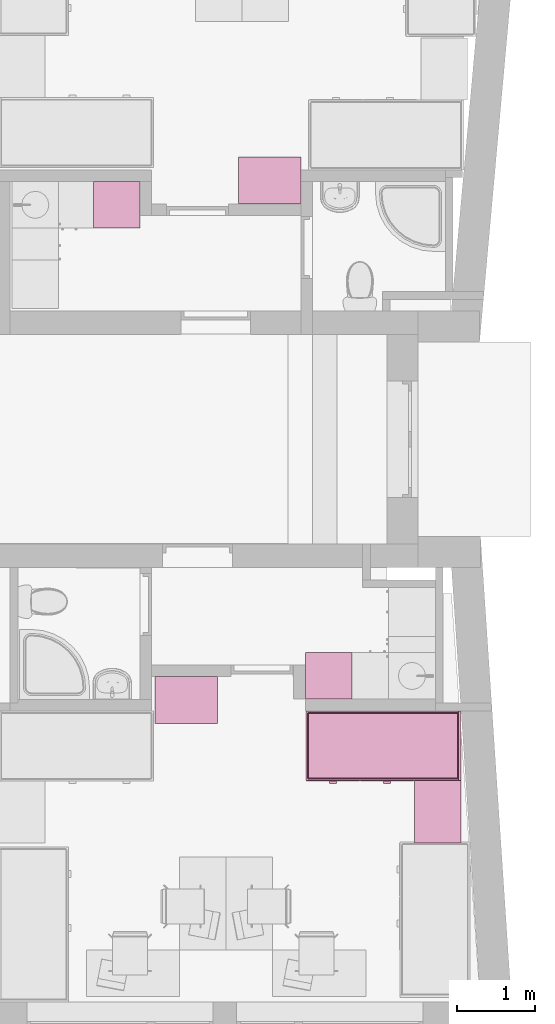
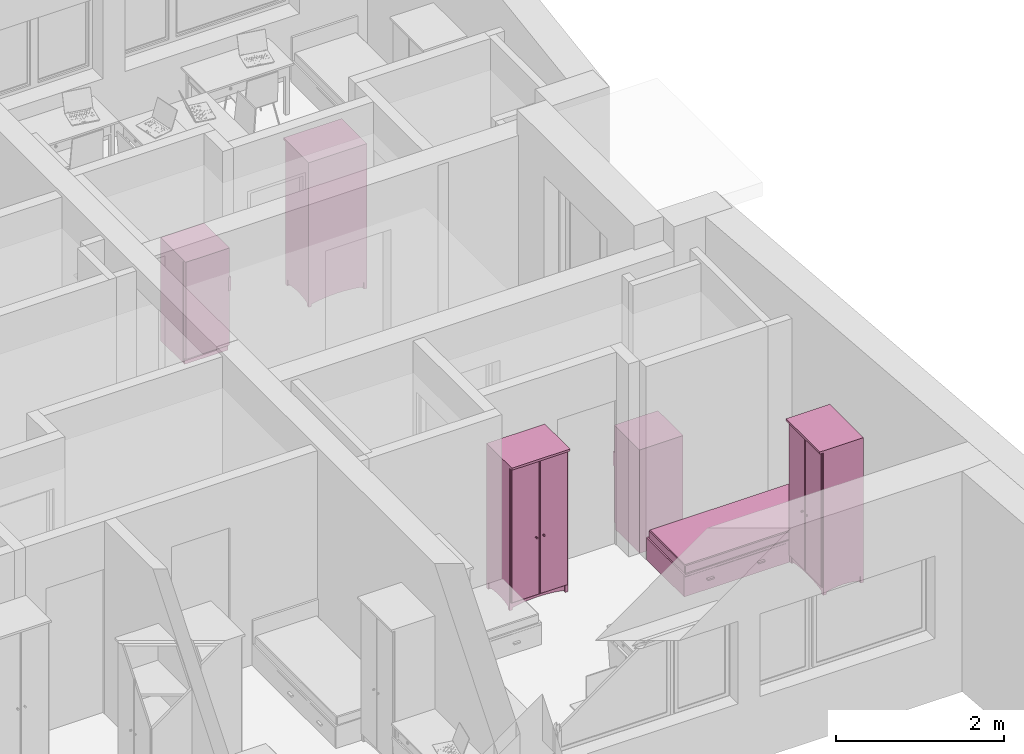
# One storey, part 143 of 165: 6 furnishings.
"""IFC2X3 building model written with IfcOpenShell, lengths in millimetres."""

from ifc_helpers import new_model, entity, si_unit, converted_unit, money_unit, direction, frame, origin_with_axes, place, context, subcontext, project, spatial, open_shell, faceted_brep, surface_model, source, transform, mapped, material, material_list, type_object, element, save


model = new_model("IFC2X3")

# Units and contexts
model_context = context("Model", 3, precision=1e-05, world=origin_with_axes(), true_north=direction((0.0, 1.0)))
body_context = subcontext(model_context, "Body", "Model", "MODEL_VIEW")
ifc_project = project(units=[si_unit("LENGTHUNIT", "METRE", prefix="MILLI"), si_unit("AREAUNIT", "SQUARE_METRE"), si_unit("VOLUMEUNIT", "CUBIC_METRE"), converted_unit("PLANEANGLEUNIT", "DEGREE", entity("IfcPlaneAngleMeasure", 0.0174532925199), si_unit("PLANEANGLEUNIT", "RADIAN"), dimensions=[0, 0, 0, 0, 0, 0, 0]), si_unit("SOLIDANGLEUNIT", "STERADIAN"), money_unit("USD"), converted_unit("TIMEUNIT", "Year", entity("IfcTimeMeasure", 31556926.0), si_unit("TIMEUNIT", "SECOND"), dimensions=[0, 0, 0, 0, 0, 0, 0]), si_unit("MASSUNIT", "GRAM"), si_unit("THERMODYNAMICTEMPERATUREUNIT", "DEGREE_CELSIUS"), si_unit("LUMINOUSINTENSITYUNIT", "LUMEN")], contexts=[model_context])

# Site, building, storey
site_placement = place(None, origin_with_axes())
site = spatial("IfcSite", under=ifc_project, at=site_placement, Name="Site", CompositionType="ELEMENT")
building_placement = place(site_placement, origin_with_axes())
building = spatial("IfcBuilding", under=site, at=building_placement, Name="Building", CompositionType="ELEMENT")
storey_placement = place(building_placement, frame((0.0, 0.0, 6300.0), z_axis=(0.0, 0.0, 1.0), x_axis=(1.0, 0.0, 0.0)))
storey = spatial("IfcBuildingStorey", under=building, at=storey_placement, Name="4KORRUS", CompositionType="ELEMENT", Elevation=6300.0)

# Furnishings
ifc_material = material(Name="Background")
ifc_material_list = material_list([ifc_material])
furnishing_element_type_1 = type_object("IfcFurnishingElementType", Name="Bed 19")
shared_shape_1 = source(origin_with_axes(), body_context, "Body", "Brep", [
    faceted_brep([(900.0, 1970.0, 0.0), (0.0, 1970.0, 0.0), (0.0, 2000.0, 0.0), (900.0, 2000.0, 0.0), (900.0, 1970.0, 660.0), (0.0, 1970.0, 660.0), (0.0, 2000.0, 660.0), (900.0, 2000.0, 660.0)], [[[0, 1, 2, 3]], [[1, 0, 4, 5]], [[2, 1, 5, 6]], [[3, 2, 6, 7]], [[0, 3, 7, 4]], [[5, 4, 7, 6]]]),
    faceted_brep([(900.0, 0.0, 0.0), (0.0, 0.0, 0.0), (0.0, 1970.0, 0.0), (900.0, 1970.0, 0.0), (900.0, 0.0, 320.0), (0.0, 0.0, 320.0), (0.0, 1970.0, 320.0), (900.0, 1970.0, 320.0)], [[[0, 1, 2, 3]], [[1, 0, 4, 5]], [[2, 1, 5, 6]], [[3, 2, 6, 7]], [[0, 3, 7, 4]], [[5, 4, 7, 6]]]),
    faceted_brep([(905.0, 10.0, 30.0), (900.0, 10.0, 30.0), (900.0, 695.0, 30.0), (905.0, 695.0, 30.0), (905.0, 10.0, 290.0), (900.0, 10.0, 290.0), (900.0, 695.0, 290.0), (905.0, 695.0, 290.0)], [[[0, 1, 2, 3]], [[1, 0, 4, 5]], [[2, 1, 5, 6]], [[3, 2, 6, 7]], [[0, 3, 7, 4]], [[5, 4, 7, 6]]]),
    faceted_brep([(935.0, 307.5, 150.0), (905.0, 307.5, 150.0), (905.0, 397.5, 150.0), (935.0, 397.5, 150.0), (935.0, 307.5, 170.0), (905.0, 307.5, 170.0), (905.0, 397.5, 170.0), (935.0, 397.5, 170.0)], [[[0, 1, 2, 3]], [[1, 0, 4, 5]], [[2, 1, 5, 6]], [[3, 2, 6, 7]], [[0, 3, 7, 4]], [[5, 4, 7, 6]]]),
    faceted_brep([(905.0, 705.0, 30.0), (900.0, 705.0, 30.0), (900.0, 1390.0, 30.0), (905.0, 1390.0, 30.0), (905.0, 705.0, 290.0), (900.0, 705.0, 290.0), (900.0, 1390.0, 290.0), (905.0, 1390.0, 290.0)], [[[0, 1, 2, 3]], [[1, 0, 4, 5]], [[2, 1, 5, 6]], [[3, 2, 6, 7]], [[0, 3, 7, 4]], [[5, 4, 7, 6]]]),
    faceted_brep([(935.0, 1002.5, 150.0), (905.0, 1002.5, 150.0), (905.0, 1092.5, 150.0), (935.0, 1092.5, 150.0), (935.0, 1002.5, 170.0), (905.0, 1002.5, 170.0), (905.0, 1092.5, 170.0), (935.0, 1092.5, 170.0)], [[[0, 1, 2, 3]], [[1, 0, 4, 5]], [[2, 1, 5, 6]], [[3, 2, 6, 7]], [[0, 3, 7, 4]], [[5, 4, 7, 6]]]),
    faceted_brep([(20.0, 40.0, 350.0), (20.0, 1950.0, 350.0), (21.522, 1957.654, 350.0), (25.858, 1964.142, 350.0), (32.346, 1968.478, 350.0), (40.0, 1970.0, 350.0), (860.0, 1970.0, 350.0), (867.654, 1968.478, 350.0), (874.142, 1964.142, 350.0), (878.478, 1957.654, 350.0), (880.0, 1950.0, 350.0), (880.0, 40.0, 350.0), (878.478, 32.346, 350.0), (874.142, 25.858, 350.0), (867.654, 21.522, 350.0), (860.0, 20.0, 350.0), (40.0, 20.0, 350.0), (32.346, 21.522, 350.0), (25.858, 25.858, 350.0), (21.522, 32.346, 350.0), (20.0, 40.0, 420.0), (20.0, 1950.0, 420.0), (21.522, 1957.654, 420.0), (25.858, 1964.142, 420.0), (32.346, 1968.478, 420.0), (40.0, 1970.0, 420.0), (860.0, 1970.0, 420.0), (867.654, 1968.478, 420.0), (874.142, 1964.142, 420.0), (878.478, 1957.654, 420.0), (880.0, 1950.0, 420.0), (880.0, 40.0, 420.0), (878.478, 32.346, 420.0), (874.142, 25.858, 420.0), (867.654, 21.522, 420.0), (860.0, 20.0, 420.0), (40.0, 20.0, 420.0), (32.346, 21.522, 420.0), (25.858, 25.858, 420.0), (21.522, 32.346, 420.0), (21.522, 40.15, 427.654), (21.522, 1949.85, 427.654), (22.956, 1957.06, 427.654), (26.955, 1963.045, 427.654), (32.94, 1967.044, 427.654), (40.15, 1968.478, 427.654), (859.85, 1968.478, 427.654), (867.06, 1967.044, 427.654), (873.045, 1963.045, 427.654), (877.044, 1957.06, 427.654), (878.478, 1949.85, 427.654), (878.478, 40.15, 427.654), (877.044, 32.94, 427.654), (873.045, 26.955, 427.654), (867.06, 22.956, 427.654), (859.85, 21.522, 427.654), (40.15, 21.522, 427.654), (32.94, 22.956, 427.654), (26.955, 26.955, 427.654), (22.956, 32.94, 427.654), (32.346, 41.216, 438.478), (32.346, 1948.784, 438.478), (33.152, 1952.836, 438.478), (34.759, 1955.241, 438.478), (37.164, 1956.848, 438.478), (41.216, 1957.654, 438.478), (858.784, 1957.654, 438.478), (862.836, 1956.848, 438.478), (865.241, 1955.241, 438.478), (866.848, 1952.836, 438.478), (867.654, 1948.784, 438.478), (867.654, 41.216, 438.478), (866.848, 37.164, 438.478), (865.241, 34.759, 438.478), (862.836, 33.152, 438.478), (858.784, 32.346, 438.478), (41.216, 32.346, 438.478), (37.164, 33.152, 438.478), (34.759, 34.759, 438.478), (33.152, 37.164, 438.478), (40.0, 41.97, 440.0), (40.0, 1948.03, 440.0), (40.327, 1949.673, 440.0), (40.0, 1950.0, 439.924), (41.97, 1950.0, 440.0), (858.03, 1950.0, 440.0), (859.673, 1949.673, 440.0), (860.0, 1950.0, 439.924), (860.0, 1948.03, 440.0), (860.0, 41.97, 440.0), (859.673, 40.327, 440.0), (860.0, 40.0, 439.924), (858.03, 40.0, 440.0), (41.97, 40.0, 440.0), (40.327, 40.327, 440.0), (40.0, 40.0, 439.924)], [[[0, 1, 2, 3, 4, 5, 6, 7, 8, 9, 10, 11, 12, 13, 14, 15, 16, 17, 18, 19]], [[1, 0, 20, 21]], [[2, 1, 21, 22]], [[3, 2, 22, 23]], [[4, 3, 23, 24]], [[5, 4, 24, 25]], [[6, 5, 25, 26]], [[7, 6, 26, 27]], [[8, 7, 27, 28]], [[9, 8, 28, 29]], [[10, 9, 29, 30]], [[11, 10, 30, 31]], [[12, 11, 31, 32]], [[13, 12, 32, 33]], [[14, 13, 33, 34]], [[15, 14, 34, 35]], [[16, 15, 35, 36]], [[17, 16, 36, 37]], [[18, 17, 37, 38]], [[19, 18, 38, 39]], [[0, 19, 39, 20]], [[21, 20, 40, 41]], [[22, 21, 41, 42]], [[23, 22, 42, 43]], [[24, 23, 43, 44]], [[25, 24, 44, 45]], [[26, 25, 45, 46]], [[27, 26, 46, 47]], [[28, 27, 47, 48]], [[29, 28, 48, 49]], [[30, 29, 49, 50]], [[31, 30, 50, 51]], [[32, 31, 51, 52]], [[33, 32, 52, 53]], [[34, 33, 53, 54]], [[35, 34, 54, 55]], [[36, 35, 55, 56]], [[37, 36, 56, 57]], [[38, 37, 57, 58]], [[39, 38, 58, 59]], [[20, 39, 59, 40]], [[41, 40, 60, 61]], [[42, 41, 61, 62]], [[43, 42, 62, 63]], [[44, 43, 63, 64]], [[45, 44, 64, 65]], [[46, 45, 65, 66]], [[47, 46, 66, 67]], [[48, 47, 67, 68]], [[49, 48, 68, 69]], [[50, 49, 69, 70]], [[51, 50, 70, 71]], [[52, 51, 71, 72]], [[53, 52, 72, 73]], [[54, 53, 73, 74]], [[55, 54, 74, 75]], [[56, 55, 75, 76]], [[57, 56, 76, 77]], [[58, 57, 77, 78]], [[59, 58, 78, 79]], [[40, 59, 79, 60]], [[61, 60, 80, 81]], [[62, 61, 81, 82, 83]], [[63, 62, 83]], [[64, 63, 83]], [[65, 64, 83, 82, 84]], [[66, 65, 84, 85]], [[67, 66, 85, 86, 87]], [[68, 67, 87]], [[69, 68, 87]], [[70, 69, 87, 86, 88]], [[71, 70, 88, 89]], [[72, 71, 89, 90, 91]], [[73, 72, 91]], [[74, 73, 91]], [[75, 74, 91, 90, 92]], [[76, 75, 92, 93]], [[77, 76, 93, 94, 95]], [[78, 77, 95]], [[79, 78, 95]], [[60, 79, 95, 94, 80]], [[81, 80, 94, 93, 92, 90, 89, 88, 86, 85, 84, 82]]]),
    faceted_brep([(20.0, 40.0, 350.0), (21.522, 32.346, 350.0), (25.858, 25.858, 350.0), (32.346, 21.522, 350.0), (40.0, 20.0, 350.0), (860.0, 20.0, 350.0), (867.654, 21.522, 350.0), (874.142, 25.858, 350.0), (878.478, 32.346, 350.0), (880.0, 40.0, 350.0), (880.0, 1950.0, 350.0), (878.478, 1957.654, 350.0), (874.142, 1964.142, 350.0), (867.654, 1968.478, 350.0), (860.0, 1970.0, 350.0), (40.0, 1970.0, 350.0), (32.346, 1968.478, 350.0), (25.858, 1964.142, 350.0), (21.522, 1957.654, 350.0), (20.0, 1950.0, 350.0), (20.0, 40.0, 320.0), (21.522, 32.346, 320.0), (25.858, 25.858, 320.0), (32.346, 21.522, 320.0), (40.0, 20.0, 320.0), (860.0, 20.0, 320.0), (867.654, 21.522, 320.0), (874.142, 25.858, 320.0), (878.478, 32.346, 320.0), (880.0, 40.0, 320.0), (880.0, 1950.0, 320.0), (878.478, 1957.654, 320.0), (874.142, 1964.142, 320.0), (867.654, 1968.478, 320.0), (860.0, 1970.0, 320.0), (40.0, 1970.0, 320.0), (32.346, 1968.478, 320.0), (25.858, 1964.142, 320.0), (21.522, 1957.654, 320.0), (20.0, 1950.0, 320.0)], [[[0, 1, 2, 3, 4, 5, 6, 7, 8, 9, 10, 11, 12, 13, 14, 15, 16, 17, 18, 19]], [[0, 20, 21, 1]], [[1, 21, 22, 2]], [[2, 22, 23, 3]], [[3, 23, 24, 4]], [[4, 24, 25, 5]], [[5, 25, 26, 6]], [[6, 26, 27, 7]], [[7, 27, 28, 8]], [[8, 28, 29, 9]], [[9, 29, 30, 10]], [[10, 30, 31, 11]], [[11, 31, 32, 12]], [[12, 32, 33, 13]], [[13, 33, 34, 14]], [[14, 34, 35, 15]], [[15, 35, 36, 16]], [[16, 36, 37, 17]], [[17, 37, 38, 18]], [[18, 38, 39, 19]], [[19, 39, 20, 0]], [[20, 39, 38, 37, 36, 35, 34, 33, 32, 31, 30, 29, 28, 27, 26, 25, 24, 23, 22, 21]]]),
])
furnishing_placement = place(storey_placement, frame((15968.0609283, -15888.0262806, 0.0), z_axis=(0.0, 0.0, 1.0), x_axis=(0.0, -1.0, 0.0)))
element("IfcFurnishingElement", 1, at=furnishing_placement, inside=storey, type_object=furnishing_element_type_1, material=ifc_material_list, Name="FU - 013", context=body_context, shape_type="MappedRepresentation", body=[
    mapped(shared_shape_1, transform((0.0, 0.0, 0.0))),
])
furnishing_element_type_2 = type_object("IfcFurnishingElementType", Name="Cupboard 19")
shared_shape_2 = source(origin_with_axes(), body_context, "Body", "Brep", [
    faceted_brep([(780.0, 600.0, 120.0), (780.0, 600.0, 2050.0), (780.0, 580.0, 2050.0), (780.0, 580.0, 120.0), (20.0, 600.0, 120.0), (20.0, 600.0, 2050.0), (20.0, 580.0, 2050.0), (20.0, 580.0, 120.0)], [[[0, 1, 2, 3]], [[4, 5, 1, 0]], [[1, 5, 6, 2]], [[3, 2, 6, 7]], [[0, 3, 7, 4]], [[7, 6, 5, 4]]]),
    faceted_brep([(0.0, 50.0, 100.0), (0.0, 600.0, 100.0), (20.0, 600.0, 100.0), (20.0, 50.0, 100.0), (0.0, 50.0, 2070.0), (0.0, 600.0, 2070.0), (20.0, 600.0, 2070.0), (20.0, 50.0, 2070.0)], [[[0, 1, 2, 3]], [[0, 4, 5, 1]], [[1, 5, 6, 2]], [[2, 6, 7, 3]], [[3, 7, 4, 0]], [[7, 6, 5, 4]]]),
    faceted_brep([(780.0, 50.0, 100.0), (780.0, 600.0, 100.0), (800.0, 600.0, 100.0), (800.0, 50.0, 100.0), (780.0, 50.0, 2070.0), (780.0, 600.0, 2070.0), (800.0, 600.0, 2070.0), (800.0, 50.0, 2070.0)], [[[0, 1, 2, 3]], [[0, 4, 5, 1]], [[1, 5, 6, 2]], [[2, 6, 7, 3]], [[3, 7, 4, 0]], [[7, 6, 5, 4]]]),
    faceted_brep([(20.0, 50.0, 100.0), (20.0, 600.0, 100.0), (780.0, 600.0, 100.0), (780.0, 50.0, 100.0), (20.0, 50.0, 120.0), (20.0, 600.0, 120.0), (780.0, 600.0, 120.0), (780.0, 50.0, 120.0)], [[[0, 1, 2, 3]], [[0, 4, 5, 1]], [[1, 5, 6, 2]], [[2, 6, 7, 3]], [[3, 7, 4, 0]], [[7, 6, 5, 4]]]),
    faceted_brep([(20.0, 50.0, 2050.0), (20.0, 600.0, 2050.0), (780.0, 600.0, 2050.0), (780.0, 50.0, 2050.0), (20.0, 50.0, 2070.0), (20.0, 600.0, 2070.0), (780.0, 600.0, 2070.0), (780.0, 50.0, 2070.0)], [[[0, 1, 2, 3]], [[0, 4, 5, 1]], [[1, 5, 6, 2]], [[2, 6, 7, 3]], [[3, 7, 4, 0]], [[7, 6, 5, 4]]]),
    faceted_brep([(0.0, 600.0, 2070.0), (0.0, 0.0, 2070.0), (0.0, 0.0, 2100.0), (0.0, 600.0, 2100.0), (800.0, 600.0, 2070.0), (800.0, 0.0, 2070.0), (800.0, 0.0, 2100.0), (800.0, 600.0, 2100.0)], [[[0, 1, 2, 3]], [[0, 4, 5, 1]], [[1, 5, 6, 2]], [[3, 2, 6, 7]], [[4, 0, 3, 7]], [[5, 4, 7, 6]]]),
    faceted_brep([(760.0, 590.0, 25.0), (760.0, 570.0, 25.0), (640.962, 570.0, 45.8), (640.962, 590.0, 45.8), (760.0, 590.0, 100.0), (760.0, 570.0, 100.0), (40.0, 570.0, 100.0), (40.0, 570.0, 25.0), (159.038, 570.0, 45.8), (279.23, 570.0, 58.32), (400.0, 570.0, 62.5), (520.77, 570.0, 58.32), (520.77, 590.0, 58.32), (400.0, 590.0, 62.5), (279.23, 590.0, 58.32), (159.038, 590.0, 45.8), (40.0, 590.0, 25.0), (40.0, 590.0, 100.0)], [[[0, 1, 2, 3]], [[4, 5, 1, 0]], [[1, 5, 6, 7, 8, 9, 10, 11, 2]], [[3, 2, 11, 12]], [[0, 3, 12, 13, 14, 15, 16, 17, 4]], [[17, 6, 5, 4]], [[16, 7, 6, 17]], [[15, 8, 7, 16]], [[14, 9, 8, 15]], [[13, 10, 9, 14]], [[12, 11, 10, 13]]]),
    faceted_brep([(760.0, 80.0, 25.0), (760.0, 60.0, 25.0), (640.962, 60.0, 45.8), (640.962, 80.0, 45.8), (760.0, 80.0, 100.0), (760.0, 60.0, 100.0), (40.0, 60.0, 100.0), (40.0, 60.0, 25.0), (159.038, 60.0, 45.8), (279.23, 60.0, 58.32), (400.0, 60.0, 62.5), (520.77, 60.0, 58.32), (520.77, 80.0, 58.32), (400.0, 80.0, 62.5), (279.23, 80.0, 58.32), (159.038, 80.0, 45.8), (40.0, 80.0, 25.0), (40.0, 80.0, 100.0)], [[[0, 1, 2, 3]], [[4, 5, 1, 0]], [[1, 5, 6, 7, 8, 9, 10, 11, 2]], [[3, 2, 11, 12]], [[0, 3, 12, 13, 14, 15, 16, 17, 4]], [[17, 6, 5, 4]], [[16, 7, 6, 17]], [[15, 8, 7, 16]], [[14, 9, 8, 15]], [[13, 10, 9, 14]], [[12, 11, 10, 13]]]),
    faceted_brep([(790.0, 90.0, 25.0), (770.0, 90.0, 25.0), (770.0, 141.266, 38.072), (790.0, 141.266, 38.072), (790.0, 90.0, 100.0), (770.0, 90.0, 100.0), (770.0, 560.0, 100.0), (770.0, 560.0, 25.0), (770.0, 508.734, 38.072), (770.0, 456.752, 47.92), (770.0, 404.257, 54.508), (770.0, 351.453, 57.808), (770.0, 298.547, 57.808), (770.0, 245.743, 54.508), (770.0, 193.248, 47.92), (790.0, 193.248, 47.92), (790.0, 245.743, 54.508), (790.0, 298.547, 57.808), (790.0, 351.453, 57.808), (790.0, 404.257, 54.508), (790.0, 456.752, 47.92), (790.0, 508.734, 38.072), (790.0, 560.0, 25.0), (790.0, 560.0, 100.0)], [[[0, 1, 2, 3]], [[4, 5, 1, 0]], [[1, 5, 6, 7, 8, 9, 10, 11, 12, 13, 14, 2]], [[3, 2, 14, 15]], [[0, 3, 15, 16, 17, 18, 19, 20, 21, 22, 23, 4]], [[23, 6, 5, 4]], [[22, 7, 6, 23]], [[21, 8, 7, 22]], [[20, 9, 8, 21]], [[19, 10, 9, 20]], [[18, 11, 10, 19]], [[17, 12, 11, 18]], [[16, 13, 12, 17]], [[15, 14, 13, 16]]]),
    faceted_brep([(30.0, 90.0, 25.0), (10.0, 90.0, 25.0), (10.0, 141.266, 38.072), (30.0, 141.266, 38.072), (30.0, 90.0, 100.0), (10.0, 90.0, 100.0), (10.0, 560.0, 100.0), (10.0, 560.0, 25.0), (10.0, 508.734, 38.072), (10.0, 456.752, 47.92), (10.0, 404.257, 54.508), (10.0, 351.453, 57.808), (10.0, 298.547, 57.808), (10.0, 245.743, 54.508), (10.0, 193.248, 47.92), (30.0, 193.248, 47.92), (30.0, 245.743, 54.508), (30.0, 298.547, 57.808), (30.0, 351.453, 57.808), (30.0, 404.257, 54.508), (30.0, 456.752, 47.92), (30.0, 508.734, 38.072), (30.0, 560.0, 25.0), (30.0, 560.0, 100.0)], [[[0, 1, 2, 3]], [[4, 5, 1, 0]], [[1, 5, 6, 7, 8, 9, 10, 11, 12, 13, 14, 2]], [[3, 2, 14, 15]], [[0, 3, 15, 16, 17, 18, 19, 20, 21, 22, 23, 4]], [[23, 6, 5, 4]], [[22, 7, 6, 23]], [[21, 8, 7, 22]], [[20, 9, 8, 21]], [[19, 10, 9, 20]], [[18, 11, 10, 19]], [[17, 12, 11, 18]], [[16, 13, 12, 17]], [[15, 14, 13, 16]]]),
    faceted_brep([(760.0, 560.0, 0.0), (760.0, 560.0, 100.0), (760.0, 600.0, 100.0), (760.0, 600.0, 0.0), (800.0, 560.0, 0.0), (800.0, 560.0, 100.0), (800.0, 600.0, 100.0), (800.0, 600.0, 0.0)], [[[0, 1, 2, 3]], [[4, 5, 1, 0]], [[1, 5, 6, 2]], [[3, 2, 6, 7]], [[0, 3, 7, 4]], [[7, 6, 5, 4]]]),
    faceted_brep([(0.0, 560.0, 0.0), (0.0, 560.0, 100.0), (0.0, 600.0, 100.0), (0.0, 600.0, 0.0), (40.0, 560.0, 0.0), (40.0, 560.0, 100.0), (40.0, 600.0, 100.0), (40.0, 600.0, 0.0)], [[[0, 1, 2, 3]], [[4, 5, 1, 0]], [[1, 5, 6, 2]], [[3, 2, 6, 7]], [[0, 3, 7, 4]], [[7, 6, 5, 4]]]),
    faceted_brep([(760.0, 50.0, 0.0), (760.0, 50.0, 100.0), (760.0, 90.0, 100.0), (760.0, 90.0, 0.0), (800.0, 50.0, 0.0), (800.0, 50.0, 100.0), (800.0, 90.0, 100.0), (800.0, 90.0, 0.0)], [[[0, 1, 2, 3]], [[4, 5, 1, 0]], [[1, 5, 6, 2]], [[3, 2, 6, 7]], [[0, 3, 7, 4]], [[7, 6, 5, 4]]]),
    faceted_brep([(0.0, 50.0, 0.0), (0.0, 50.0, 100.0), (0.0, 90.0, 100.0), (0.0, 90.0, 0.0), (40.0, 50.0, 0.0), (40.0, 50.0, 100.0), (40.0, 90.0, 100.0), (40.0, 90.0, 0.0)], [[[0, 1, 2, 3]], [[4, 5, 1, 0]], [[1, 5, 6, 2]], [[3, 2, 6, 7]], [[0, 3, 7, 4]], [[7, 6, 5, 4]]]),
    faceted_brep([(780.0, 580.0, 587.5), (780.0, 580.0, 607.5), (780.0, 50.0, 607.5), (780.0, 50.0, 587.5), (20.0, 580.0, 587.5), (20.0, 580.0, 607.5), (20.0, 50.0, 607.5), (20.0, 50.0, 587.5)], [[[0, 1, 2, 3]], [[4, 5, 1, 0]], [[1, 5, 6, 2]], [[3, 2, 6, 7]], [[0, 3, 7, 4]], [[7, 6, 5, 4]]]),
    faceted_brep([(780.0, 580.0, 1075.0), (780.0, 580.0, 1095.0), (780.0, 50.0, 1095.0), (780.0, 50.0, 1075.0), (20.0, 580.0, 1075.0), (20.0, 580.0, 1095.0), (20.0, 50.0, 1095.0), (20.0, 50.0, 1075.0)], [[[0, 1, 2, 3]], [[4, 5, 1, 0]], [[1, 5, 6, 2]], [[3, 2, 6, 7]], [[0, 3, 7, 4]], [[7, 6, 5, 4]]]),
    faceted_brep([(780.0, 580.0, 1562.5), (780.0, 580.0, 1582.5), (780.0, 50.0, 1582.5), (780.0, 50.0, 1562.5), (20.0, 580.0, 1562.5), (20.0, 580.0, 1582.5), (20.0, 50.0, 1582.5), (20.0, 50.0, 1562.5)], [[[0, 1, 2, 3]], [[4, 5, 1, 0]], [[1, 5, 6, 2]], [[3, 2, 6, 7]], [[0, 3, 7, 4]], [[7, 6, 5, 4]]]),
    faceted_brep([(789.5, 50.0, 110.5), (400.5, 50.0, 110.5), (400.5, 50.0, 2059.5), (789.5, 50.0, 2059.5), (789.5, 40.0, 110.5), (400.5, 40.0, 110.5), (400.5, 40.0, 2059.5), (789.5, 40.0, 2059.5), (779.5, 30.0, 120.5), (410.5, 30.0, 120.5), (410.5, 30.0, 2049.5), (779.5, 30.0, 2049.5)], [[[0, 1, 2, 3]], [[0, 4, 5, 1]], [[1, 5, 6, 2]], [[2, 6, 7, 3]], [[3, 7, 4, 0]], [[4, 8, 9, 5]], [[5, 9, 10, 6]], [[6, 10, 11, 7]], [[7, 11, 8, 4]], [[10, 9, 8, 11]]]),
    faceted_brep([(399.5, 50.0, 110.5), (10.5, 50.0, 110.5), (10.5, 50.0, 2059.5), (399.5, 50.0, 2059.5), (399.5, 40.0, 110.5), (10.5, 40.0, 110.5), (10.5, 40.0, 2059.5), (399.5, 40.0, 2059.5), (389.5, 30.0, 120.5), (20.5, 30.0, 120.5), (20.5, 30.0, 2049.5), (389.5, 30.0, 2049.5)], [[[0, 1, 2, 3]], [[0, 4, 5, 1]], [[1, 5, 6, 2]], [[2, 6, 7, 3]], [[3, 7, 4, 0]], [[4, 8, 9, 5]], [[5, 9, 10, 6]], [[6, 10, 11, 7]], [[7, 11, 8, 4]], [[10, 9, 8, 11]]]),
    faceted_brep([(339.608, 30.0, 954.0), (338.0, 30.0, 960.0), (339.608, 30.0, 966.0), (344.0, 30.0, 970.392), (350.0, 30.0, 972.0), (356.0, 30.0, 970.392), (360.392, 30.0, 966.0), (362.0, 30.0, 960.0), (360.392, 30.0, 954.0), (356.0, 30.0, 949.608), (350.0, 30.0, 948.0), (344.0, 30.0, 949.608), (339.608, 5.0, 954.0), (338.0, 5.0, 960.0), (339.608, 5.0, 966.0), (344.0, 5.0, 970.392), (350.0, 5.0, 972.0), (356.0, 5.0, 970.392), (360.392, 5.0, 966.0), (362.0, 5.0, 960.0), (360.392, 5.0, 954.0), (356.0, 5.0, 949.608), (350.0, 5.0, 948.0), (344.0, 5.0, 949.608)], [[[0, 1, 2, 3, 4, 5, 6, 7, 8, 9, 10, 11]], [[0, 12, 13, 1]], [[1, 13, 14, 2]], [[2, 14, 15, 3]], [[3, 15, 16, 4]], [[4, 16, 17, 5]], [[5, 17, 18, 6]], [[6, 18, 19, 7]], [[7, 19, 20, 8]], [[8, 20, 21, 9]], [[9, 21, 22, 10]], [[10, 22, 23, 11]], [[11, 23, 12, 0]], [[12, 23, 22, 21, 20, 19, 18, 17, 16, 15, 14, 13]]]),
    faceted_brep([(460.392, 30.0, 954.0), (456.0, 30.0, 949.608), (450.0, 30.0, 948.0), (444.0, 30.0, 949.608), (439.608, 30.0, 954.0), (438.0, 30.0, 960.0), (439.608, 30.0, 966.0), (444.0, 30.0, 970.392), (450.0, 30.0, 972.0), (456.0, 30.0, 970.392), (460.392, 30.0, 966.0), (462.0, 30.0, 960.0), (460.392, 5.0, 954.0), (456.0, 5.0, 949.608), (450.0, 5.0, 948.0), (444.0, 5.0, 949.608), (439.608, 5.0, 954.0), (438.0, 5.0, 960.0), (439.608, 5.0, 966.0), (444.0, 5.0, 970.392), (450.0, 5.0, 972.0), (456.0, 5.0, 970.392), (460.392, 5.0, 966.0), (462.0, 5.0, 960.0)], [[[0, 1, 2, 3, 4, 5, 6, 7, 8, 9, 10, 11]], [[1, 0, 12, 13]], [[2, 1, 13, 14]], [[3, 2, 14, 15]], [[4, 3, 15, 16]], [[5, 4, 16, 17]], [[6, 5, 17, 18]], [[7, 6, 18, 19]], [[8, 7, 19, 20]], [[9, 8, 20, 21]], [[10, 9, 21, 22]], [[11, 10, 22, 23]], [[0, 11, 23, 12]], [[12, 23, 22, 21, 20, 19, 18, 17, 16, 15, 14, 13]]]),
])
for number, where, z_axis, x_axis, name in (
    (2, (15903.8738504, -8755.99141655, 0.0), (0.0, 0.0, 1.0), (-1.0, 0.0, 0.0), "FU - 014"),
    (3, (14029.1036899, -16048.5106464, 0.0), (0.0, 0.0, 1.0), (1.0, 0.0, 0.0), "FU - 014"),
    (4, (17368.0609283, -16788.0262806, 0.0), (0.0, 0.0, 1.0), (0.0, -1.0, 0.0), "FU - 014"),
):
    element("IfcFurnishingElement", number, at=place(storey_placement, frame(where, z_axis=z_axis, x_axis=x_axis)), inside=storey, type_object=furnishing_element_type_2, material=ifc_material_list, Name=name, context=body_context, shape_type="MappedRepresentation", body=[
        mapped(shared_shape_2, transform((0.0, 0.0, 0.0))),
    ])
furnishing_element_type_3 = type_object("IfcFurnishingElementType", Name="Refrigerator 19")
shared_shape_3 = source(origin_with_axes(), body_context, "Body", "SurfaceModel", [
    faceted_brep([(0.0, 0.0, 1475.0), (600.0, 0.0, 1475.0), (600.0, 0.0, 1500.0), (0.0, 0.0, 1500.0), (0.0, 600.0, 1475.0), (600.0, 600.0, 1475.0), (600.0, 600.0, 1500.0), (0.0, 600.0, 1500.0)], [[[0, 1, 2, 3]], [[0, 4, 5, 1]], [[1, 5, 6, 2]], [[3, 2, 6, 7]], [[4, 0, 3, 7]], [[5, 4, 7, 6]]]),
    faceted_brep([(0.0, 65.0, 0.0), (600.0, 65.0, 0.0), (600.0, 65.0, 1475.0), (0.0, 65.0, 1475.0), (0.0, 600.0, 0.0), (600.0, 600.0, 0.0), (600.0, 600.0, 1475.0), (0.0, 600.0, 1475.0)], [[[0, 1, 2, 3]], [[0, 4, 5, 1]], [[1, 5, 6, 2]], [[3, 2, 6, 7]], [[4, 0, 3, 7]], [[5, 4, 7, 6]]]),
    faceted_brep([(0.0, 30.0, 0.0), (600.0, 30.0, 0.0), (600.0, 30.0, 90.0), (0.0, 30.0, 90.0), (0.0, 60.0, 0.0), (600.0, 60.0, 0.0), (600.0, 60.0, 90.0), (0.0, 60.0, 90.0)], [[[0, 1, 2, 3]], [[0, 4, 5, 1]], [[1, 5, 6, 2]], [[3, 2, 6, 7]], [[4, 0, 3, 7]], [[5, 4, 7, 6]]]),
    faceted_brep([(0.0, 60.0, 90.0), (600.0, 60.0, 90.0), (600.0, 0.0, 90.0), (0.0, 0.0, 90.0), (0.0, 60.0, 1474.5), (600.0, 60.0, 1474.5), (600.0, 0.0, 1474.5), (0.0, 0.0, 1474.5)], [[[0, 1, 2, 3]], [[0, 4, 5, 1]], [[1, 5, 6, 2]], [[3, 2, 6, 7]], [[4, 0, 3, 7]], [[5, 4, 7, 6]]]),
    surface_model("IfcShellBasedSurfaceModel", [(600.0, -30.0, 900.0), (600.0, -30.0, 1100.0), (600.0, 0.0, 1100.0), (600.0, 0.0, 900.0)], [open_shell([[[0, 1, 2, 3]]])]),
    surface_model("IfcShellBasedSurfaceModel", [(600.0, -30.0, 900.0), (600.0, -30.0, 1100.0), (570.0, -30.0, 1100.0), (570.0, -30.0, 900.0)], [open_shell([[[0, 1, 2, 3]]])]),
])
for number, where, z_axis, x_axis, name in (
    (5, (16561.5480058, -15138.0262806, 0.0), (0.0, 0.0, 1.0), (-1.0, 0.0, 0.0), "FU - 007"),
    (6, (13234.2564771, -9670.3690093, 0.0), (0.0, 0.0, 1.0), (1.0, 0.0, 0.0), "FU - 007"),
):
    element("IfcFurnishingElement", number, at=place(storey_placement, frame(where, z_axis=z_axis, x_axis=x_axis)), inside=storey, type_object=furnishing_element_type_3, material=ifc_material_list, Name=name, context=body_context, shape_type="MappedRepresentation", body=[
        mapped(shared_shape_3, transform((0.0, 0.0, 0.0))),
    ])

save(model, "model.ifc")
